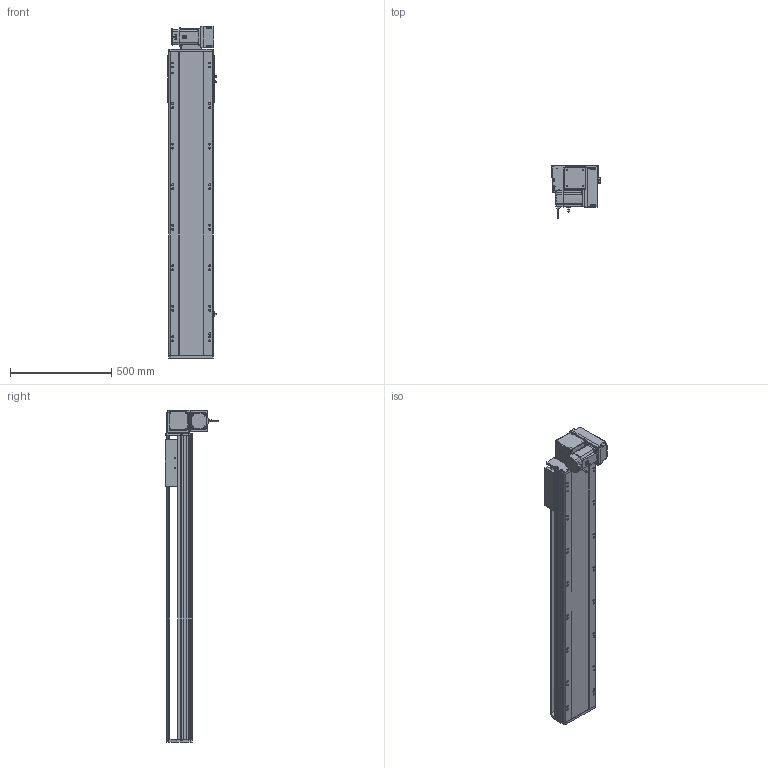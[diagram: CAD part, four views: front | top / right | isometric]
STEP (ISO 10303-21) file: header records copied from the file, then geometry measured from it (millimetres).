
FILE_DESCRIPTION (( 'STEP AP214' ), '1' );
FILE_NAME ('RTB22S-XX-1150-RM-M75-C4.STEP', '2025-12-12T07:47:52', ( '' ), ( '' ), 'SwSTEP 2.0', 'SolidWorks 2018', '' );
FILE_SCHEMA (( 'AUTOMOTIVE_DESIGN' ));
Length unit declared in the file: millimetre
Products named in the file (14): RTB22S-GY-007奻裔^RTB22S-XX-XX-RM-M75-C4; 750W萇儂^RTB22S-XX-XX-RM-M75-C4; RTH22-GY-013外置感应片^RTB22S-XX-XX-RM-M75-C4; RTB22S-L-004賑釱^RTB22S-XX-XX-RM-M75-C4; RTB22S-GY-008-M75--萇儂啣^RTB22S-RM-々湍釱蚾饜_RTB22S-XX-XX-RM-M75-C4; RTB22S-RM-々湍釱蚾饜^RTB22S-XX-XX-RM-M75-C4; RTB22S-GY-014--々湍釱^RTB22S-RM-々湍釱蚾饜_RTB22S-XX-XX-RM-M75-C4; RTB22S-XX-1150-RM-M75-C4; RTB22S-GY-017P^RTB22S-RM-々湍釱蚾饜_RTB22S-XX-XX-RM-M75-C4; RTB22S-GY-001耜裔^RTB22S-XX-XX-RM-M75-C4; OMRON EE-SX672 传感器^RTB22S-XX-XX-RM-M75-C4; RTB22S-GY-018P^RTB22S-RM-々湍釱蚾饜_RTB22S-XX-XX-RM-M75-C4; RTB22S-GY-005P^RTB22S-RM-々湍釱蚾饜_RTB22S-XX-XX-RM-M75-C4; RTB22S-L-011菁釱^RTB22S-XX-XX-RM-M75-C4
Assembly tree (16 placements, depth 3):
  RTB22S-XX-1150-RM-M75-C4
    RTB22S-L-011菁釱^RTB22S-XX-XX-RM-M75-C4
    RTB22S-GY-001耜裔^RTB22S-XX-XX-RM-M75-C4
    750W萇儂^RTB22S-XX-XX-RM-M75-C4
    RTB22S-GY-007奻裔^RTB22S-XX-XX-RM-M75-C4
    RTB22S-L-004賑釱^RTB22S-XX-XX-RM-M75-C4
    RTH22-GY-013外置感应片^RTB22S-XX-XX-RM-M75-C4
    OMRON EE-SX672 传感器^RTB22S-XX-XX-RM-M75-C4  x3
    RTB22S-RM-々湍釱蚾饜^RTB22S-XX-XX-RM-M75-C4
      RTB22S-GY-014--々湍釱^RTB22S-RM-々湍釱蚾饜_RTB22S-XX-XX-RM-M75-C4
      RTB22S-GY-017P^RTB22S-RM-々湍釱蚾饜_RTB22S-XX-XX-RM-M75-C4  x2
      RTB22S-GY-005P^RTB22S-RM-々湍釱蚾饜_RTB22S-XX-XX-RM-M75-C4
      RTB22S-GY-008-M75--萇儂啣^RTB22S-RM-々湍釱蚾饜_RTB22S-XX-XX-RM-M75-C4
      RTB22S-GY-018P^RTB22S-RM-々湍釱蚾饜_RTB22S-XX-XX-RM-M75-C4
Bounding box: 238.5 x 264.7 x 1637.5 mm (x, y, z)
Volume: 23037995.4 mm3; surface area: 2390665.7 mm2
Topology: 15 solids, 15 shells, 1983 faces, 5386 edges, 3452 vertices
Faces by surface type: plane 915, cylinder 622, bspline 296, cone 138, sphere 8, torus 4
Entity records: 52768 total; most frequent: CARTESIAN_POINT 15172, ORIENTED_EDGE 7560, DIRECTION 7274, EDGE_CURVE 3780, AXIS2_PLACEMENT_3D 2566, VERTEX_POINT 2456, LINE 2142, VECTOR 2142
